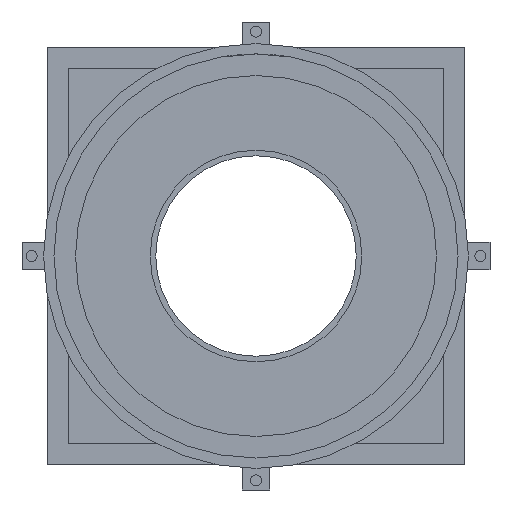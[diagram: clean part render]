
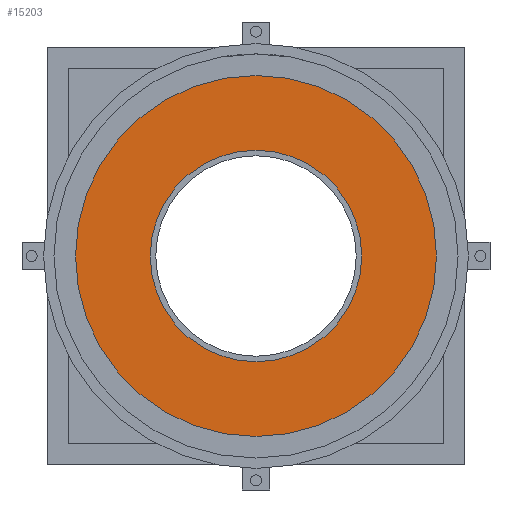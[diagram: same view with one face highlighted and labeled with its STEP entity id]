
A CAD part, front view. The second image highlights one B-rep face of the part: STEP entity #15203.
In plain terms, the highlighted planar face has unit normal (0, -1, 0).
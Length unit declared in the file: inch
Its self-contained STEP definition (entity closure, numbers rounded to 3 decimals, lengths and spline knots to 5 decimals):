
#15169=CARTESIAN_POINT('',(5.11811,3.74016,0.0));
#15170=VERTEX_POINT('',#15169);
#15171=CARTESIAN_POINT('',(0.0,3.74016,0.0));
#15172=DIRECTION('',(0.0,-1.0,0.0));
#15173=DIRECTION('',(1.0,0.0,0.0));
#15174=AXIS2_PLACEMENT_3D('',#15171,#15172,#15173);
#15175=CIRCLE('',#15174,5.11811);
#15176=EDGE_CURVE('',#15170,#15170,#15175,.T.);
#15184=CARTESIAN_POINT('',(4.05906,3.74016,0.0));
#15185=DIRECTION('',(0.0,-1.0,0.0));
#15186=DIRECTION('',(0.0,0.0,-1.0));
#15187=AXIS2_PLACEMENT_3D('',#15184,#15185,#15186);
#15188=PLANE('',#15187);
#15189=ORIENTED_EDGE('',*,*,#15176,.T.);
#15190=EDGE_LOOP('',(#15189));
#15191=FACE_OUTER_BOUND('',#15190,.T.);
#15192=CARTESIAN_POINT('',(3.,3.74016,0.0));
#15193=VERTEX_POINT('',#15192);
#15194=CARTESIAN_POINT('',(0.0,3.74016,0.0));
#15195=DIRECTION('',(0.0,-1.0,0.0));
#15196=DIRECTION('',(1.0,0.0,0.0));
#15197=AXIS2_PLACEMENT_3D('',#15194,#15195,#15196);
#15198=CIRCLE('',#15197,3.);
#15199=EDGE_CURVE('',#15193,#15193,#15198,.T.);
#15200=ORIENTED_EDGE('',*,*,#15199,.F.);
#15201=EDGE_LOOP('',(#15200));
#15202=FACE_BOUND('',#15201,.T.);
#15203=ADVANCED_FACE('',(#15191,#15202),#15188,.T.);
